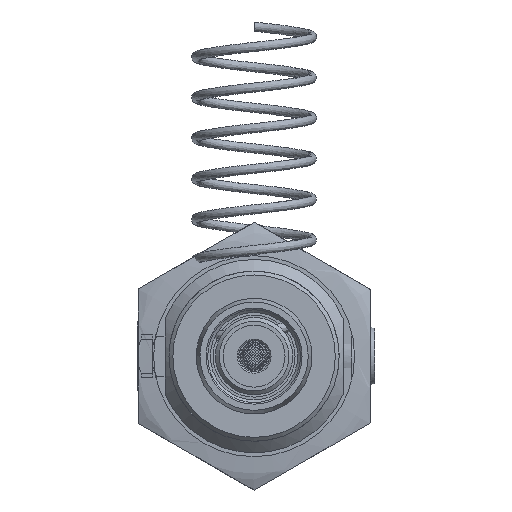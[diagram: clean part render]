
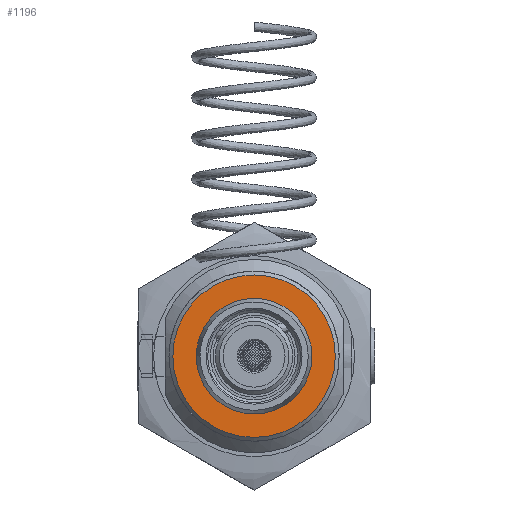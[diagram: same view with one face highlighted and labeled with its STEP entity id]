
A CAD part, left-side view. The second image highlights one B-rep face of the part: STEP entity #1196.
In plain terms, the highlighted planar face has unit normal (-1, 0, 0).
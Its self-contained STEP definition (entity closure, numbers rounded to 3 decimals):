
#1196 = ADVANCED_FACE( '', ( #2855, #2856 ), #2857, .F. );
#2855 = FACE_BOUND( '', #6380, .T. );
#2856 = FACE_OUTER_BOUND( '', #6381, .T. );
#2857 = PLANE( '', #6382 );
#6380 = EDGE_LOOP( '', ( #10352 ) );
#6381 = EDGE_LOOP( '', ( #10353 ) );
#6382 = AXIS2_PLACEMENT_3D( '', #10354, #10355, #10356 );
#10352 = ORIENTED_EDGE( '', *, *, #21332, .T. );
#10353 = ORIENTED_EDGE( '', *, *, #21302, .T. );
#10354 = CARTESIAN_POINT( '', ( -34.198, 0., 10.5 ) );
#10355 = DIRECTION( '', ( 1., 0., 0. ) );
#10356 = DIRECTION( '', ( 0., 0., -1. ) );
#21302 = EDGE_CURVE( '', #25174, #25174, #25175, .T. );
#21332 = EDGE_CURVE( '', #25230, #25230, #25231, .T. );
#25174 = VERTEX_POINT( '', #31751 );
#25175 = CIRCLE( '', #31752, 10.5 );
#25230 = VERTEX_POINT( '', #31989 );
#25231 = CIRCLE( '', #31990, 7.475 );
#31751 = CARTESIAN_POINT( '', ( -34.198, 0., 10.5 ) );
#31752 = AXIS2_PLACEMENT_3D( '', #41917, #41918, #41919 );
#31989 = CARTESIAN_POINT( '', ( -34.198, 0., 7.475 ) );
#31990 = AXIS2_PLACEMENT_3D( '', #41981, #41982, #41983 );
#41917 = CARTESIAN_POINT( '', ( -34.198, 0., 0. ) );
#41918 = DIRECTION( '', ( -1., 0., 0. ) );
#41919 = DIRECTION( '', ( 0., 0., 1. ) );
#41981 = CARTESIAN_POINT( '', ( -34.198, 0., 0. ) );
#41982 = DIRECTION( '', ( 1., 0., 0. ) );
#41983 = DIRECTION( '', ( 0., 0., 1. ) );
